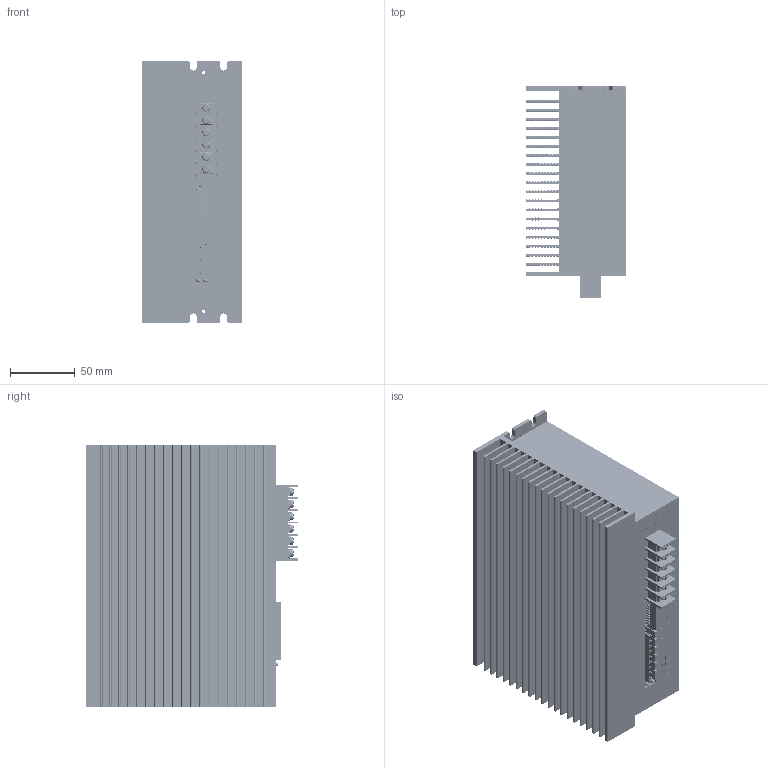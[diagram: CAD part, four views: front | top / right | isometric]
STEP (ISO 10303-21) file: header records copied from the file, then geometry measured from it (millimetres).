
FILE_DESCRIPTION((''),'2;1');
FILE_NAME('3NS2280_ASM','2026-07-09T16:41:39',('Administrator'),(''),'CREO PARAMETRIC BY PTC INC, 2018400','CREO PARAMETRIC BY PTC INC, 2018400','');
FILE_SCHEMA(('CONFIG_CONTROL_DESIGN'));
Products named in the file (6): 3NS2280; JIUWEIBAMA; CHAZUO; 9XINDIANYUANZUO; SULIAOWANGXIANZUO; 3NS2280_ASM
Assembly tree (5 placements, depth 2):
  3NS2280_ASM
    3NS2280
    JIUWEIBAMA
    CHAZUO
    9XINDIANYUANZUO
    SULIAOWANGXIANZUO
Bounding box: 78 x 164 x 202.8 mm (x, y, z)
Volume: 1628985.9 mm3; surface area: 352513.6 mm2
Topology: 5 solids, 5 shells, 21693 faces, 61429 edges, 40813 vertices
Faces by surface type: plane 20072, cylinder 1292, sphere 178, torus 89, extrusion 62
Entity records: 692310 total; most frequent: CARTESIAN_POINT 126721, ORIENTED_EDGE 122846, DIRECTION 107179, EDGE_CURVE 61423, VECTOR 58415, LINE 58353, VERTEX_POINT 40812, AXIS2_PLACEMENT_3D 24382
